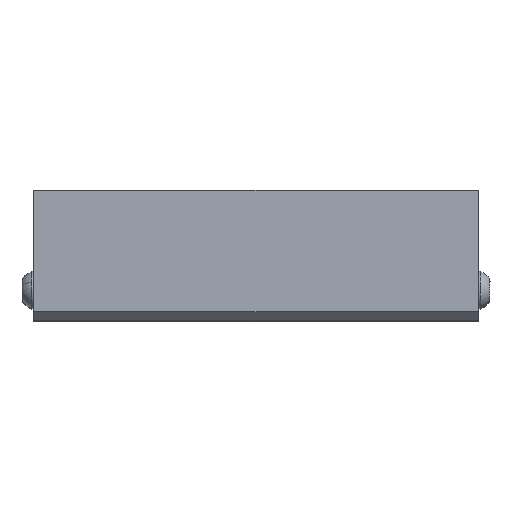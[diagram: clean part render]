
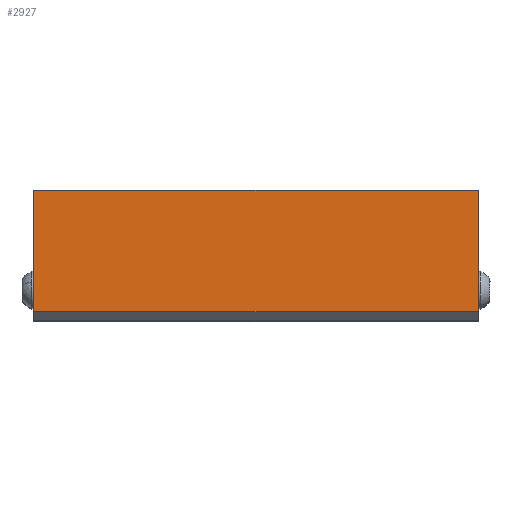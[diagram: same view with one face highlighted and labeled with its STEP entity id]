
A CAD part, top view. The second image highlights one B-rep face of the part: STEP entity #2927.
In plain terms, the highlighted planar face has unit normal (0, 0, 1) as drawn and (1, 0, 0) by its records, which use the part's own axes.
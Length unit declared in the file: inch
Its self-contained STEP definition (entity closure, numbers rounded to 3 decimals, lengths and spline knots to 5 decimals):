
#31 = VECTOR ( 'NONE', #560, 39.37008 ) ;
#69 = EDGE_LOOP ( 'NONE', ( #249, #487, #3786, #3783 ) ) ;
#115 = LINE ( 'NONE', #1095, #3753 ) ;
#132 = DIRECTION ( 'NONE',  ( 0., 0., 1. ) ) ;
#191 = CARTESIAN_POINT ( 'NONE',  ( 3., 0.21294, 2.475 ) ) ;
#249 = ORIENTED_EDGE ( 'NONE', *, *, #840, .T. ) ;
#331 = VERTEX_POINT ( 'NONE', #3343 ) ;
#487 = ORIENTED_EDGE ( 'NONE', *, *, #3584, .F. ) ;
#560 = DIRECTION ( 'NONE',  ( 0., 0., -1. ) ) ;
#840 = EDGE_CURVE ( 'NONE', #4076, #331, #4235, .T. ) ;
#928 = VECTOR ( 'NONE', #2680, 39.37008 ) ;
#1095 = CARTESIAN_POINT ( 'NONE',  ( 3., 0.21294, 2.475 ) ) ;
#1109 = EDGE_CURVE ( 'NONE', #1705, #4076, #115, .T. ) ;
#1136 = DIRECTION ( 'NONE',  ( 0., 0., -1. ) ) ;
#1269 = CARTESIAN_POINT ( 'NONE',  ( 3., 1.56294, 5.64788 ) ) ;
#1705 = VERTEX_POINT ( 'NONE', #191 ) ;
#1752 = EDGE_CURVE ( 'NONE', #1705, #2630, #2868, .T. ) ;
#1813 = FACE_OUTER_BOUND ( 'NONE', #69, .T. ) ;
#2135 = DIRECTION ( 'NONE',  ( 0., 1., 0. ) ) ;
#2295 = CARTESIAN_POINT ( 'NONE',  ( 3., 0.21294, -2.475 ) ) ;
#2630 = VERTEX_POINT ( 'NONE', #3270 ) ;
#2680 = DIRECTION ( 'NONE',  ( 0., 1., 0. ) ) ;
#2868 = LINE ( 'NONE', #2893, #3772 ) ;
#2893 = CARTESIAN_POINT ( 'NONE',  ( 3., 0.6299, 2.475 ) ) ;
#2927 = ADVANCED_FACE ( 'NONE', ( #1813 ), #3101, .F. ) ;
#2932 = LINE ( 'NONE', #1269, #31 ) ;
#2986 = AXIS2_PLACEMENT_3D ( 'NONE', #3148, #3516, #132 ) ;
#3101 = PLANE ( 'NONE',  #2986 ) ;
#3148 = CARTESIAN_POINT ( 'NONE',  ( 3., 0.6299, 2.475 ) ) ;
#3270 = CARTESIAN_POINT ( 'NONE',  ( 3., 1.56294, 2.475 ) ) ;
#3343 = CARTESIAN_POINT ( 'NONE',  ( 3., 1.56294, -2.475 ) ) ;
#3516 = DIRECTION ( 'NONE',  ( -1., 0., 0. ) ) ;
#3584 = EDGE_CURVE ( 'NONE', #2630, #331, #2932, .T. ) ;
#3706 = CARTESIAN_POINT ( 'NONE',  ( 3., 0.6299, -2.475 ) ) ;
#3753 = VECTOR ( 'NONE', #1136, 39.37008 ) ;
#3772 = VECTOR ( 'NONE', #2135, 39.37008 ) ;
#3783 = ORIENTED_EDGE ( 'NONE', *, *, #1109, .T. ) ;
#3786 = ORIENTED_EDGE ( 'NONE', *, *, #1752, .F. ) ;
#4076 = VERTEX_POINT ( 'NONE', #2295 ) ;
#4235 = LINE ( 'NONE', #3706, #928 ) ;
